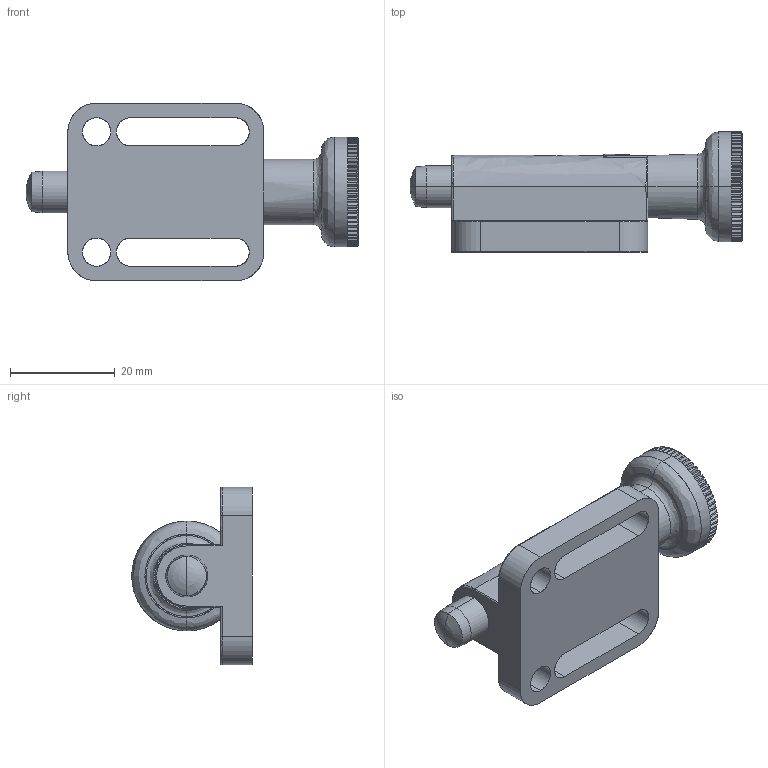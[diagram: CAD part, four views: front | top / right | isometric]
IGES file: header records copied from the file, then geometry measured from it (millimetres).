
Start section: SolidWorks IGES file using analytic representation for surfaces
Global section: file name: C:\HEMSIDA\cad\SLDPRT_2007\gn417\\gn417c_8.igs; native system: SolidWorks 2007; preprocessor: SolidWorks 2007; author: Administrator; date: 070919.153019; units: millimetre
Bounding box: 63.5 x 23 x 34 mm (x, y, z)
Surface area: 8245.1 mm2 (no closed solid volume)
Topology: 0 solids, 0 shells, 329 faces, 3477 edges, 3467 vertices
Faces by surface type: bspline 286, revolution 43
